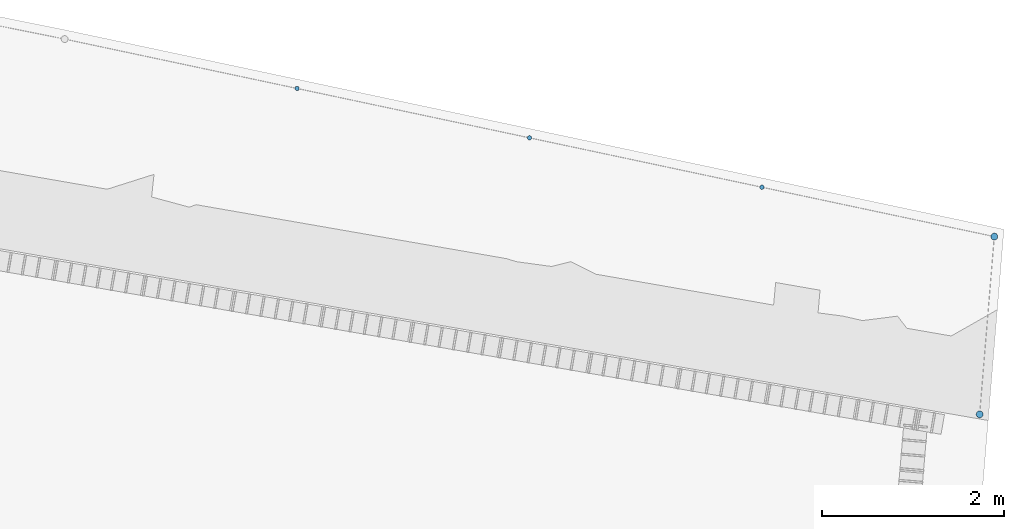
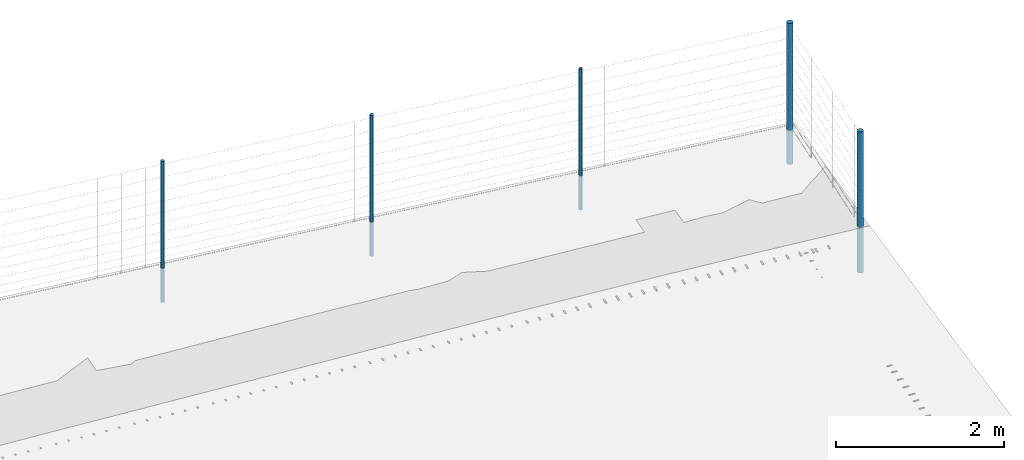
# Not in any storey, part 12 of 72: 5 members.
"""IFC4 model written with IfcOpenShell, lengths in metres."""

from ifc_helpers import new_model, si_unit, direction, frame, origin_with_axes, place, context, subcontext, project, spatial, circle, extrude, material, material_profile, profile_set, profile_usage, type_object, element, save


model = new_model("IFC4")

# Units and contexts
model_context = context("Model", 3, precision=1e-05, world=origin_with_axes(), true_north=direction((0.0, 1.0)))
body_context = subcontext(model_context, "Body", "Model", "MODEL_VIEW")
ifc_project = project(units=[si_unit("AREAUNIT", "SQUARE_METRE"), si_unit("VOLUMEUNIT", "CUBIC_METRE"), si_unit("LENGTHUNIT", "METRE")], contexts=[model_context])

# Site
site_placement = place(None, origin_with_axes())
site = spatial("IfcSite", under=ifc_project, at=site_placement, Name="Lares · Rua das Mercês · artigo 4771")

# Members
ifc_material = material(Name="Aço galvanizado / Stahl verzinkt", Category="steel")
ifc_material_profile_1 = material_profile(ifc_material, circle(Radius=0.038))
ifc_profile_set_1 = profile_set([ifc_material_profile_1], Name="D0.076")
ifc_profile_usage_1 = profile_usage(ifc_profile_set_1)
member_type_1 = type_object("IfcMemberType", Name="D0.076 / galvanized", PredefinedType="NOTDEFINED", material=ifc_profile_set_1)
member_1_placement = place(site_placement, frame((83.7593067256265, 7.51667712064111, 16.1321271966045), z_axis=(0.0, 0.0, 1.0), x_axis=(1.0, -1.03767253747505e-17, 0.0)))
element("IfcMember", 1, at=member_1_placement, inside=site, type_object=member_type_1, material=ifc_profile_usage_1, Name="Vedação · poste de canto/topo", PredefinedType="POST", context=body_context, shape_type="SweptSolid", body=[
    extrude(circle(Radius=0.038), origin_with_axes(), (0.0, 0.0, 1.0), 2.05),
])
ifc_profile_usage_2 = profile_usage(ifc_profile_set_1)
member_2_placement = place(site_placement, frame((83.5979376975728, 5.55876887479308, 15.7988699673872), z_axis=(0.0, 0.0, 1.0), x_axis=(1.0, -1.03767253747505e-17, 0.0)))
element("IfcMember", 2, at=member_2_placement, inside=site, type_object=member_type_1, material=ifc_profile_usage_2, Name="Vedação · poste de canto/topo", PredefinedType="POST", context=body_context, shape_type="SweptSolid", body=[
    extrude(circle(Radius=0.038), origin_with_axes(), (0.0, 0.0, 1.0), 2.05),
])
ifc_material_profile_2 = material_profile(ifc_material, circle(Radius=0.024))
ifc_profile_set_2 = profile_set([ifc_material_profile_2], Name="D0.048")
ifc_profile_usage_3 = profile_usage(ifc_profile_set_2)
member_type_2 = type_object("IfcMemberType", Name="D0.048 / galvanized", PredefinedType="NOTDEFINED", material=ifc_profile_set_2)
member_3_placement = place(site_placement, frame((76.0808193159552, 9.14792620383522, 15.8154563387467), z_axis=(0.0, 0.0, 1.0), x_axis=(1.0, -1.03767253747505e-17, 0.0)))
element("IfcMember", 3, at=member_3_placement, inside=site, type_object=member_type_2, material=ifc_profile_usage_3, Name="Vedação · poste intermédio", PredefinedType="POST", context=body_context, shape_type="SweptSolid", body=[
    extrude(circle(Radius=0.024), origin_with_axes(), (0.0, 0.0, 1.0), 2.05),
])
ifc_profile_usage_4 = profile_usage(ifc_profile_set_2)
member_4_placement = place(site_placement, frame((78.640315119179, 8.60417650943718, 15.921013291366), z_axis=(0.0, 0.0, 1.0), x_axis=(1.0, -1.03767253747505e-17, 0.0)))
element("IfcMember", 4, at=member_4_placement, inside=site, type_object=member_type_2, material=ifc_profile_usage_4, Name="Vedação · poste intermédio", PredefinedType="POST", context=body_context, shape_type="SweptSolid", body=[
    extrude(circle(Radius=0.024), origin_with_axes(), (0.0, 0.0, 1.0), 2.05),
])
ifc_profile_usage_5 = profile_usage(ifc_profile_set_2)
member_5_placement = place(site_placement, frame((81.1998109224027, 8.06042681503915, 16.0265702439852), z_axis=(0.0, 0.0, 1.0), x_axis=(1.0, -1.03767253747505e-17, 0.0)))
element("IfcMember", 5, at=member_5_placement, inside=site, type_object=member_type_2, material=ifc_profile_usage_5, Name="Vedação · poste intermédio", PredefinedType="POST", context=body_context, shape_type="SweptSolid", body=[
    extrude(circle(Radius=0.024), origin_with_axes(), (0.0, 0.0, 1.0), 2.05),
])

save(model, "model.ifc")
